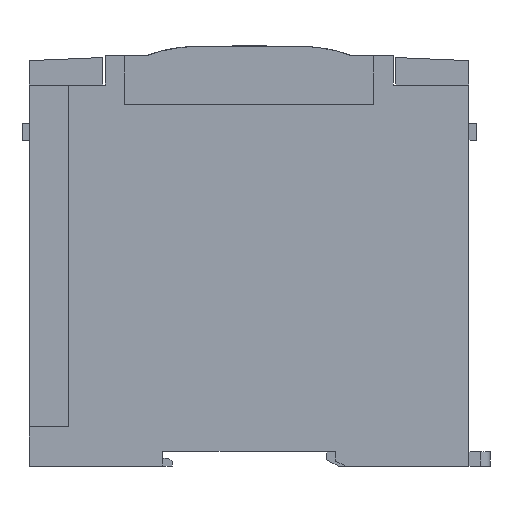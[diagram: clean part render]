
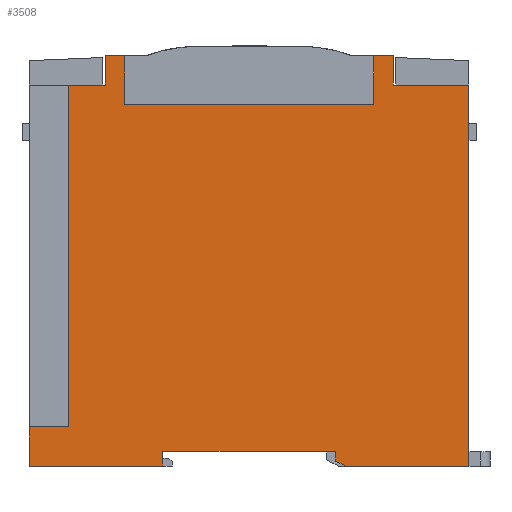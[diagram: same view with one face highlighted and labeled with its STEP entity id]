
A CAD part, left-side view. The second image highlights one B-rep face of the part: STEP entity #3508.
In plain terms, the highlighted planar face has unit normal (-1, 0, 0).
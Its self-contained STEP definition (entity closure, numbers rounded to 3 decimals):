
#3508=ADVANCED_FACE('',(#6268),#5009,.T.);
#5009=PLANE('',#30404);
#6268=FACE_OUTER_BOUND('',#7481,.T.);
#7481=EDGE_LOOP('',(#10235,#10236,#10237,#10238,#10239,#10240,#10241,#10242,
#10243,#10244,#10245,#10246,#10247,#10248,#10249,#10250,#10251,#10252,#10253));
#10235=ORIENTED_EDGE('',*,*,#20528,.T.);
#10236=ORIENTED_EDGE('',*,*,#20529,.T.);
#10237=ORIENTED_EDGE('',*,*,#20530,.T.);
#10238=ORIENTED_EDGE('',*,*,#20531,.T.);
#10239=ORIENTED_EDGE('',*,*,#20532,.T.);
#10240=ORIENTED_EDGE('',*,*,#20533,.T.);
#10241=ORIENTED_EDGE('',*,*,#20508,.T.);
#10242=ORIENTED_EDGE('',*,*,#20534,.T.);
#10243=ORIENTED_EDGE('',*,*,#20535,.T.);
#10244=ORIENTED_EDGE('',*,*,#20526,.T.);
#10245=ORIENTED_EDGE('',*,*,#20447,.F.);
#10246=ORIENTED_EDGE('',*,*,#20536,.F.);
#10247=ORIENTED_EDGE('',*,*,#20537,.T.);
#10248=ORIENTED_EDGE('',*,*,#20538,.T.);
#10249=ORIENTED_EDGE('',*,*,#20539,.T.);
#10250=ORIENTED_EDGE('',*,*,#20540,.T.);
#10251=ORIENTED_EDGE('',*,*,#20541,.T.);
#10252=ORIENTED_EDGE('',*,*,#20542,.T.);
#10253=ORIENTED_EDGE('',*,*,#20543,.T.);
#17487=VERTEX_POINT('',#40675);
#17488=VERTEX_POINT('',#40677);
#17540=VERTEX_POINT('',#40801);
#17541=VERTEX_POINT('',#40802);
#17551=VERTEX_POINT('',#40835);
#17552=VERTEX_POINT('',#40839);
#17553=VERTEX_POINT('',#40840);
#17554=VERTEX_POINT('',#40842);
#17555=VERTEX_POINT('',#40844);
#17556=VERTEX_POINT('',#40846);
#17557=VERTEX_POINT('',#40848);
#17558=VERTEX_POINT('',#40851);
#17559=VERTEX_POINT('',#40854);
#17560=VERTEX_POINT('',#40856);
#17561=VERTEX_POINT('',#40858);
#17562=VERTEX_POINT('',#40860);
#17563=VERTEX_POINT('',#40862);
#17564=VERTEX_POINT('',#40864);
#17565=VERTEX_POINT('',#40866);
#20447=EDGE_CURVE('',#17487,#17488,#24352,.T.);
#20508=EDGE_CURVE('',#17540,#17541,#24402,.T.);
#20526=EDGE_CURVE('',#17551,#17488,#24420,.T.);
#20528=EDGE_CURVE('',#17552,#17553,#24422,.T.);
#20529=EDGE_CURVE('',#17553,#17554,#24423,.T.);
#20530=EDGE_CURVE('',#17554,#17555,#24424,.T.);
#20531=EDGE_CURVE('',#17555,#17556,#24425,.T.);
#20532=EDGE_CURVE('',#17556,#17557,#24426,.T.);
#20533=EDGE_CURVE('',#17557,#17540,#24427,.T.);
#20534=EDGE_CURVE('',#17541,#17558,#24428,.T.);
#20535=EDGE_CURVE('',#17558,#17551,#24429,.T.);
#20536=EDGE_CURVE('',#17559,#17487,#24430,.T.);
#20537=EDGE_CURVE('',#17559,#17560,#24431,.T.);
#20538=EDGE_CURVE('',#17560,#17561,#24432,.T.);
#20539=EDGE_CURVE('',#17561,#17562,#24433,.T.);
#20540=EDGE_CURVE('',#17562,#17563,#24434,.T.);
#20541=EDGE_CURVE('',#17563,#17564,#24435,.T.);
#20542=EDGE_CURVE('',#17564,#17565,#24436,.T.);
#20543=EDGE_CURVE('',#17565,#17552,#24437,.T.);
#24352=LINE('',#40676,#27493);
#24402=LINE('',#40800,#27543);
#24420=LINE('',#40834,#27561);
#24422=LINE('',#40838,#27563);
#24423=LINE('',#40841,#27564);
#24424=LINE('',#40843,#27565);
#24425=LINE('',#40845,#27566);
#24426=LINE('',#40847,#27567);
#24427=LINE('',#40849,#27568);
#24428=LINE('',#40850,#27569);
#24429=LINE('',#40852,#27570);
#24430=LINE('',#40853,#27571);
#24431=LINE('',#40855,#27572);
#24432=LINE('',#40857,#27573);
#24433=LINE('',#40859,#27574);
#24434=LINE('',#40861,#27575);
#24435=LINE('',#40863,#27576);
#24436=LINE('',#40865,#27577);
#24437=LINE('',#40867,#27578);
#27493=VECTOR('',#33136,1.);
#27543=VECTOR('',#33222,1.);
#27561=VECTOR('',#33250,1.);
#27563=VECTOR('',#33254,1.);
#27564=VECTOR('',#33255,1.);
#27565=VECTOR('',#33256,1.);
#27566=VECTOR('',#33257,1.);
#27567=VECTOR('',#33258,1.);
#27568=VECTOR('',#33259,1.);
#27569=VECTOR('',#33260,1.);
#27570=VECTOR('',#33261,1.);
#27571=VECTOR('',#33262,1.);
#27572=VECTOR('',#33263,1.);
#27573=VECTOR('',#33264,1.);
#27574=VECTOR('',#33265,1.);
#27575=VECTOR('',#33266,1.);
#27576=VECTOR('',#33267,1.);
#27577=VECTOR('',#33268,1.);
#27578=VECTOR('',#33269,1.);
#30404=AXIS2_PLACEMENT_3D('',#40868,#33270,#33271);
#33136=DIRECTION('',(0.,0.,-1.));
#33222=DIRECTION('',(0.,-1.,0.));
#33250=DIRECTION('',(0.,-1.,0.));
#33254=DIRECTION('',(0.,1.,0.));
#33255=DIRECTION('',(0.,0.,-1.));
#33256=DIRECTION('',(0.,1.,0.));
#33257=DIRECTION('',(0.,0.,-1.));
#33258=DIRECTION('',(0.,-1.,0.));
#33259=DIRECTION('',(0.,0.,1.));
#33260=DIRECTION('',(0.,0.,-1.));
#33261=DIRECTION('',(0.,-0.894,-0.447));
#33262=DIRECTION('',(0.,-1.,0.));
#33263=DIRECTION('',(0.,0.,1.));
#33264=DIRECTION('',(0.,1.,0.));
#33265=DIRECTION('',(0.,0.,-1.));
#33266=DIRECTION('',(0.,1.,0.));
#33267=DIRECTION('',(0.,0.,1.));
#33268=DIRECTION('',(0.,1.,0.));
#33269=DIRECTION('',(0.,0.,-1.));
#33270=DIRECTION('',(-1.,0.,0.));
#33271=DIRECTION('',(0.,1.,0.));
#40675=CARTESIAN_POINT('',(-45.,-45.,78.));
#40676=CARTESIAN_POINT('',(-45.,-45.,-0.1));
#40677=CARTESIAN_POINT('',(-45.,-45.,0.));
#40800=CARTESIAN_POINT('',(-45.,-45.5,3.));
#40801=CARTESIAN_POINT('',(-45.,17.7,3.));
#40802=CARTESIAN_POINT('',(-45.,-17.7,3.));
#40834=CARTESIAN_POINT('',(-45.,-45.5,0.));
#40835=CARTESIAN_POINT('',(-45.,-19.7,0.));
#40838=CARTESIAN_POINT('',(-45.,-45.5,78.));
#40839=CARTESIAN_POINT('',(-45.,29.5,78.));
#40840=CARTESIAN_POINT('',(-45.,37.,78.));
#40841=CARTESIAN_POINT('',(-45.,37.,84.5));
#40842=CARTESIAN_POINT('',(-45.,37.,8.));
#40843=CARTESIAN_POINT('',(-45.,-45.5,8.));
#40844=CARTESIAN_POINT('',(-45.,45.,8.));
#40845=CARTESIAN_POINT('',(-45.,45.,84.5));
#40846=CARTESIAN_POINT('',(-45.,45.,0.));
#40847=CARTESIAN_POINT('',(-45.,-45.5,0.));
#40848=CARTESIAN_POINT('',(-45.,17.7,0.));
#40849=CARTESIAN_POINT('',(-45.,17.7,84.5));
#40850=CARTESIAN_POINT('',(-45.,-17.7,84.5));
#40851=CARTESIAN_POINT('',(-45.,-17.7,1.));
#40852=CARTESIAN_POINT('',(-45.,-17.7,1.));
#40853=CARTESIAN_POINT('',(-45.,-45.,78.));
#40854=CARTESIAN_POINT('',(-45.,-29.5,78.));
#40855=CARTESIAN_POINT('',(-45.,-29.5,84.5));
#40856=CARTESIAN_POINT('',(-45.,-29.5,84.));
#40857=CARTESIAN_POINT('',(-45.,-45.5,84.));
#40858=CARTESIAN_POINT('',(-45.,-25.5,84.));
#40859=CARTESIAN_POINT('',(-45.,-25.5,84.5));
#40860=CARTESIAN_POINT('',(-45.,-25.5,74.));
#40861=CARTESIAN_POINT('',(-45.,-45.5,74.));
#40862=CARTESIAN_POINT('',(-45.,25.5,74.));
#40863=CARTESIAN_POINT('',(-45.,25.5,84.5));
#40864=CARTESIAN_POINT('',(-45.,25.5,84.));
#40865=CARTESIAN_POINT('',(-45.,-45.5,84.));
#40866=CARTESIAN_POINT('',(-45.,29.5,84.));
#40867=CARTESIAN_POINT('',(-45.,29.5,84.5));
#40868=CARTESIAN_POINT('',(-45.,-45.5,84.5));
